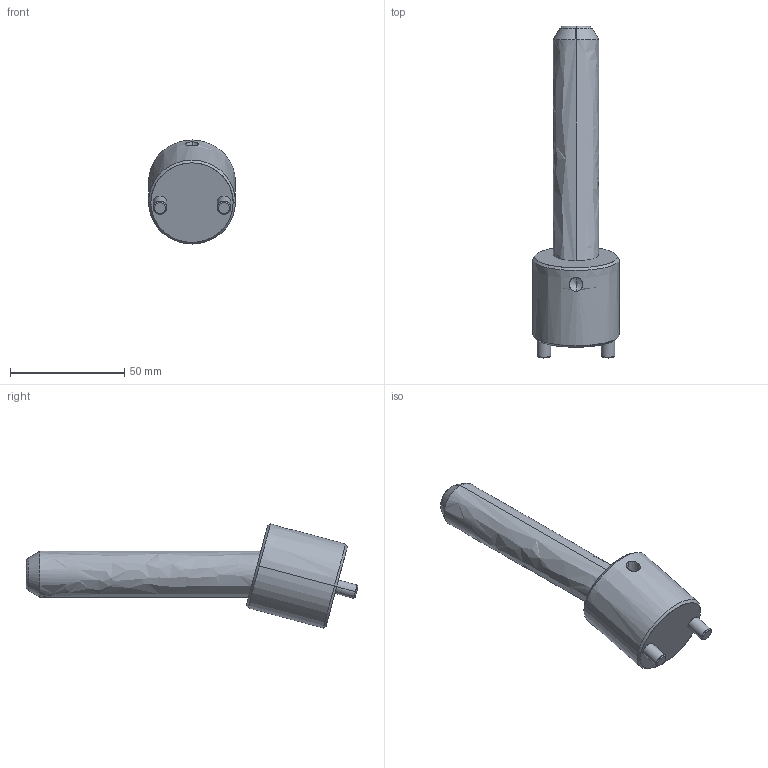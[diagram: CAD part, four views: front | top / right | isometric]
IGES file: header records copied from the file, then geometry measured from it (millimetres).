
Start section: START RECORD GO HERE.
Global section: file name: CI1820100.igs; native system: DASSAULT SYSTEMES CATIA V5 R20 - www.3ds.com; preprocessor: CATIA Version 5 Release 20 ; author: r.borello; organization: CFTORINO; date: 20190624.094414; units: millimetre
Bounding box: 38 x 145.15 x 45.51 mm (x, y, z)
Surface area: 17433.5 mm2 (no closed solid volume)
Topology: 0 solids, 0 shells, 39 faces, 162 edges, 160 vertices
Faces by surface type: revolution 32, plane 7
